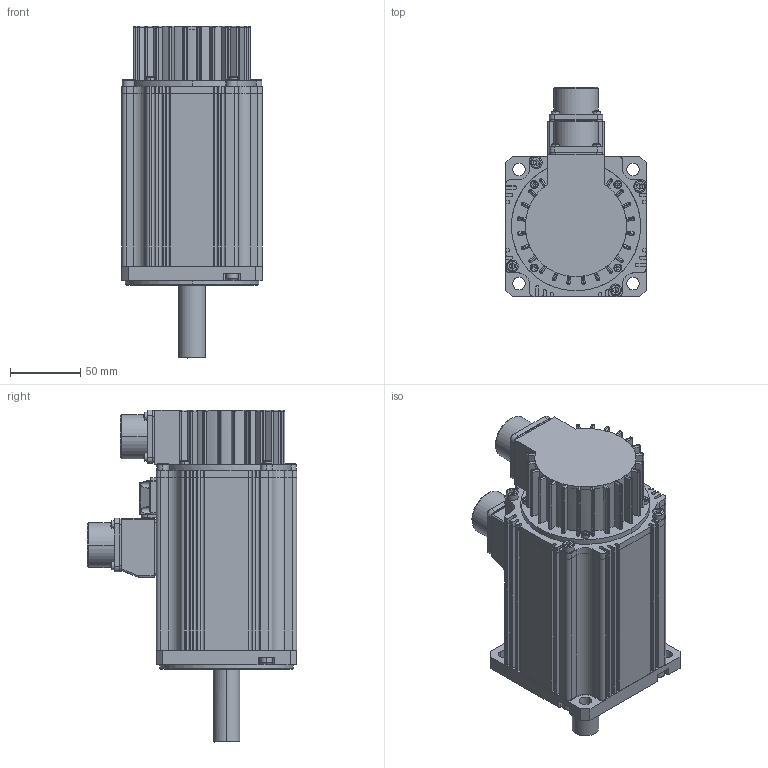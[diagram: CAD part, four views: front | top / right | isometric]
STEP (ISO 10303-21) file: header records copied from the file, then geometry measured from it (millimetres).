
FILE_DESCRIPTION((''),'2;1');
FILE_NAME('L-15E4K3A0_ASM','2018-11-26T',('lisy41'),(''),'CREO PARAMETRIC BY PTC INC, 2015480','CREO PARAMETRIC BY PTC INC, 2015480','');
FILE_SCHEMA(('CONFIG_CONTROL_DESIGN'));
Length unit declared in the file: millimetre
Products named in the file (39): 80D5005301_AF0; 80S6000401; 80G6000101; HANGCHAMIFENGJIAODIAN; 80G3000201; MJ01-8065_AF0; MJ01-8065_AF1; MJ01-8065_AF2; MJ01-8065_AF3; 80C4003601_AF0_ASM; 80Q0006801_AF0; 80L4004601_AF0_ASM; 80D2004601_AF0; 80L5004101_AF0_ASM; 80D2004501_AF0; 80S6002801; 80S5000101; MJ01-8059_AF0; MJ01-8059_AF1; MJ01-8059_AF2; MJ01-8059_AF3; MJ01-8059_AF4; MJ01-8059_AF5; MJ01-8059_AF6; MJ01-8059_AF7; MJ01-8045_AF0; MJ01-8045_AF1; MJ01-8045_AF2; MJ01-8045_AF3; 80D20009011_AF0; 80G3000501; MJ01-8041; 80T5004101_AF0_ASM; MJ01-8033_AF0; MJ01-8033_AF1; MJ01-8033_AF2; MJ01-8033_AF3; ASM0001_AF0_ASM; L-15E4K3A0_ASM
Assembly tree (42 placements, depth 4):
  L-15E4K3A0_ASM
    80C4003601_AF0_ASM
      80D5005301_AF0
      80S6000401
      80G6000101
      HANGCHAMIFENGJIAODIAN
      80G3000201
      MJ01-8065_AF0
      MJ01-8065_AF1
      MJ01-8065_AF2
      MJ01-8065_AF3
    80L5004101_AF0_ASM
      80L4004601_AF0_ASM
        80Q0006801_AF0
      80D2004601_AF0
    80D2004501_AF0
    80S6002801
    80S5000101
    MJ01-8059_AF0
    MJ01-8059_AF1
    MJ01-8059_AF2
    MJ01-8059_AF3
    MJ01-8059_AF4
    MJ01-8059_AF5
    MJ01-8059_AF6
    MJ01-8059_AF7
    MJ01-8045_AF0
    MJ01-8045_AF1
    MJ01-8045_AF2
    MJ01-8045_AF3
    ASM0001_AF0_ASM
      80T5004101_AF0_ASM
        80D20009011_AF0
        HANGCHAMIFENGJIAODIAN
        80G3000501
        MJ01-8041  x4
      MJ01-8033_AF0
      MJ01-8033_AF1
      MJ01-8033_AF2
      MJ01-8033_AF3
Bounding box: 100 x 149.1 x 236.55 mm (x, y, z)
Volume: 396531 mm3; surface area: 251567.9 mm2
Topology: 37 solids, 73 shells, 2673 faces, 6562 edges, 4008 vertices
Faces by surface type: cylinder 1162, plane 884, cone 467, sphere 116, torus 44
Entity records: 66429 total; most frequent: CARTESIAN_POINT 12623, DIRECTION 12009, ORIENTED_EDGE 10498, EDGE_CURVE 5326, AXIS2_PLACEMENT_3D 4631, VERTEX_POINT 3402, VECTOR 2747, LINE 2747
